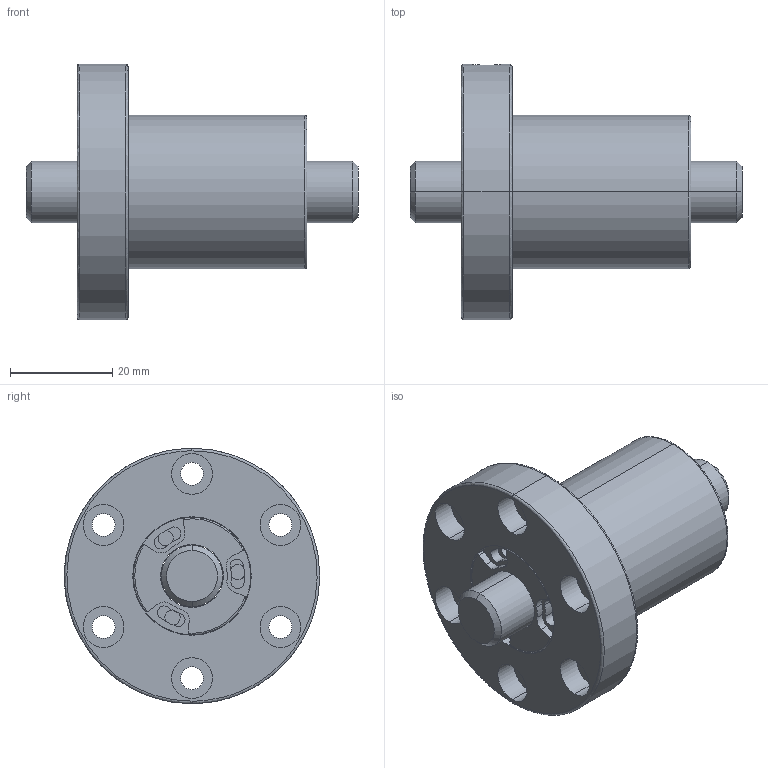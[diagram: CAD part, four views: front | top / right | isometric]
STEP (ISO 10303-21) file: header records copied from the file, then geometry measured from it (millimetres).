
FILE_DESCRIPTION (( 'STEP AP203' ), '1' );
FILE_NAME ('SFVSR01210B1N-C.STEP', '2020-06-17T03:57:10', ( '' ), ( '' ), 'SwSTEP 2.0', 'SolidWorks 2013', '' );
FILE_SCHEMA (( 'CONFIG_CONTROL_DESIGN' ));
Length unit declared in the file: millimetre
Products named in the file (1): SFVSR01210B1N-C
Bounding box: 65 x 50 x 50 mm (x, y, z)
Volume: 42481.7 mm3; surface area: 15926.4 mm2
Topology: 2 solids, 2 shells, 220 faces, 552 edges, 356 vertices
Faces by surface type: cylinder 134, plane 70, bspline 12, cone 4
Entity records: 7434 total; most frequent: CARTESIAN_POINT 1856, DIRECTION 1270, ORIENTED_EDGE 1104, EDGE_CURVE 552, AXIS2_PLACEMENT_3D 543, VERTEX_POINT 356, CIRCLE 334, EDGE_LOOP 258
